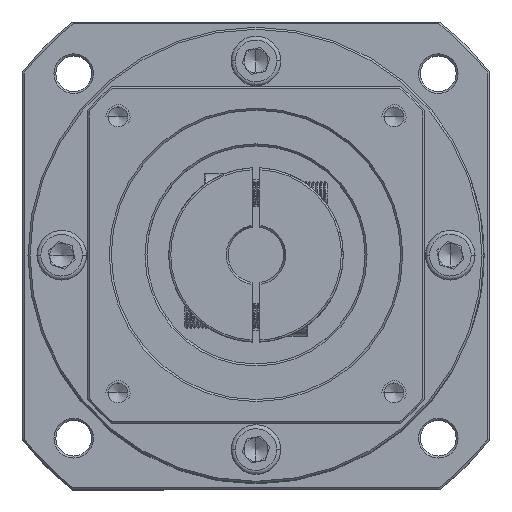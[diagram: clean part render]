
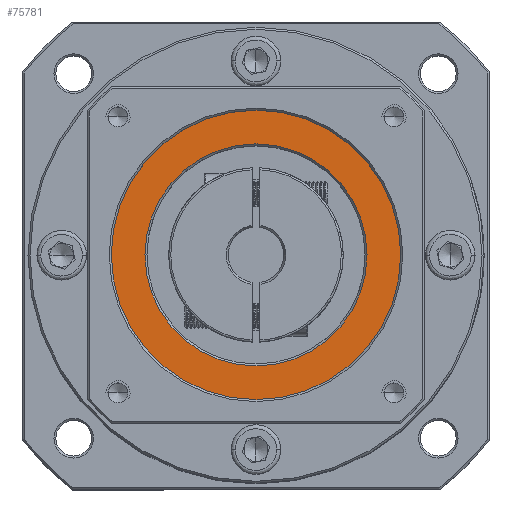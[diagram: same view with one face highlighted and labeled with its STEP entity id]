
A CAD part, top view. The second image highlights one B-rep face of the part: STEP entity #75781.
In plain terms, the highlighted planar face has unit normal (0, 0, 1).
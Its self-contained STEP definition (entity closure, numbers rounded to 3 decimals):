
#3957 = EDGE_CURVE ( 'NONE', #14108, #54196, #53662, .T. ) ;
#6188 = ORIENTED_EDGE ( 'NONE', *, *, #3957, .T. ) ;
#6667 = CARTESIAN_POINT ( 'NONE',  ( -130.097, 40.136, 54.103 ) ) ;
#11726 = DIRECTION ( 'NONE',  ( 0., 0., 1. ) ) ;
#14108 = VERTEX_POINT ( 'NONE', #60496 ) ;
#20471 = ORIENTED_EDGE ( 'NONE', *, *, #32221, .T. ) ;
#22277 = CARTESIAN_POINT ( 'NONE',  ( -93.597, 40.136, 54.103 ) ) ;
#25183 = DIRECTION ( 'NONE',  ( 0., 0., 1. ) ) ;
#30303 = CARTESIAN_POINT ( 'NONE',  ( -93.597, 40.136, 54.103 ) ) ;
#31087 = DIRECTION ( 'NONE',  ( 1., 0., 0. ) ) ;
#32221 = EDGE_CURVE ( 'NONE', #47774, #67211, #71491, .T. ) ;
#33327 = CARTESIAN_POINT ( 'NONE',  ( -93.597, 40.136, 54.103 ) ) ;
#39139 = DIRECTION ( 'NONE',  ( 1., 0., 0. ) ) ;
#40301 = ORIENTED_EDGE ( 'NONE', *, *, #57242, .T. ) ;
#42152 = DIRECTION ( 'NONE',  ( 1., 0., 0. ) ) ;
#45648 = FACE_BOUND ( 'NONE', #89357, .T. ) ;
#46134 = AXIS2_PLACEMENT_3D ( 'NONE', #33327, #94695, #42152 ) ;
#46853 = EDGE_LOOP ( 'NONE', ( #6188, #40301 ) ) ;
#47774 = VERTEX_POINT ( 'NONE', #62832 ) ;
#50128 = CARTESIAN_POINT ( 'NONE',  ( -121.597, 40.136, 54.103 ) ) ;
#53662 = CIRCLE ( 'NONE', #112844, 36.5 ) ;
#53749 = CIRCLE ( 'NONE', #64661, 36.5 ) ;
#54196 = VERTEX_POINT ( 'NONE', #6667 ) ;
#57242 = EDGE_CURVE ( 'NONE', #54196, #14108, #53749, .T. ) ;
#58667 = CIRCLE ( 'NONE', #46134, 28. ) ;
#60496 = CARTESIAN_POINT ( 'NONE',  ( -57.097, 40.136, 54.103 ) ) ;
#61430 = ORIENTED_EDGE ( 'NONE', *, *, #76696, .T. ) ;
#62832 = CARTESIAN_POINT ( 'NONE',  ( -65.597, 40.136, 54.103 ) ) ;
#64298 = CARTESIAN_POINT ( 'NONE',  ( -93.597, 40.136, 54.103 ) ) ;
#64661 = AXIS2_PLACEMENT_3D ( 'NONE', #64298, #11726, #73103 ) ;
#67211 = VERTEX_POINT ( 'NONE', #50128 ) ;
#71491 = CIRCLE ( 'NONE', #78054, 28. ) ;
#73103 = DIRECTION ( 'NONE',  ( 1., 0., 0. ) ) ;
#75781 = ADVANCED_FACE ( 'NONE', ( #89574, #45648 ), #103399, .T. ) ;
#76696 = EDGE_CURVE ( 'NONE', #67211, #47774, #58667, .T. ) ;
#77669 = CARTESIAN_POINT ( 'NONE',  ( -93.597, 40.136, 54.103 ) ) ;
#78054 = AXIS2_PLACEMENT_3D ( 'NONE', #30303, #91690, #39139 ) ;
#83589 = DIRECTION ( 'NONE',  ( 0., 0., 1. ) ) ;
#86457 = AXIS2_PLACEMENT_3D ( 'NONE', #77669, #25183, #86478 ) ;
#86478 = DIRECTION ( 'NONE',  ( 1., 0., 0. ) ) ;
#89357 = EDGE_LOOP ( 'NONE', ( #20471, #61430 ) ) ;
#89574 = FACE_OUTER_BOUND ( 'NONE', #46853, .T. ) ;
#91690 = DIRECTION ( 'NONE',  ( 0., 0., -1. ) ) ;
#94695 = DIRECTION ( 'NONE',  ( 0., 0., -1. ) ) ;
#103399 = PLANE ( 'NONE',  #86457 ) ;
#112844 = AXIS2_PLACEMENT_3D ( 'NONE', #22277, #83589, #31087 ) ;
